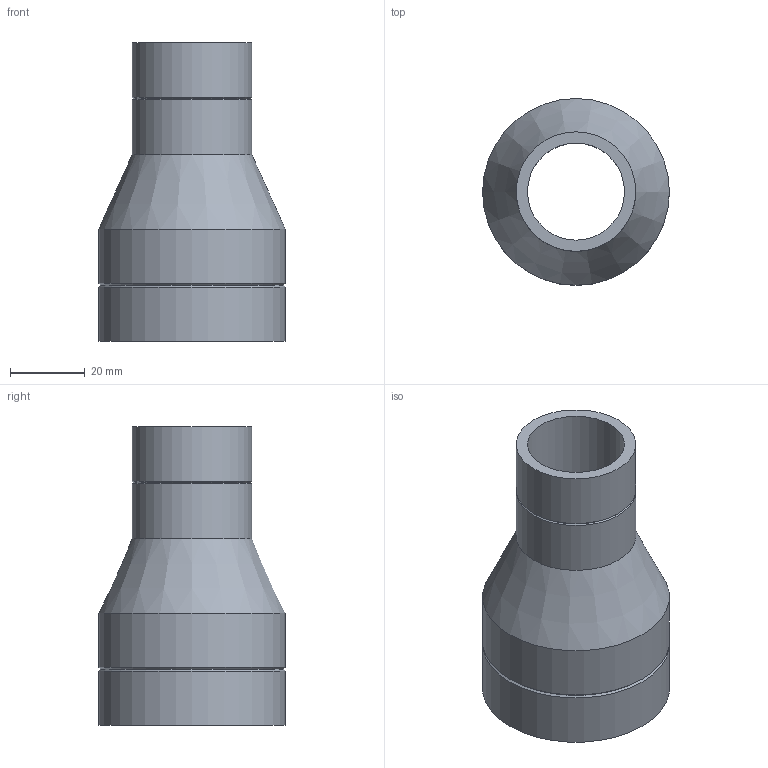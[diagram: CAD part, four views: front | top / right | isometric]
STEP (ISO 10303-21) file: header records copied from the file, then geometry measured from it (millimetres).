
FILE_DESCRIPTION(/* description */ (''),/* implementation_level */ '2;1');
FILE_NAME(/* name */ 'Z:\Geberit\Export\NewStep\361557.stp',/* time_stamp */ '2014-04-01T21:05:55+02:00',/* author */ ('nelson'),/* organization */ (''),/* preprocessor_version */ 'ST-DEVELOPER v15.2',/* originating_system */ 'Autodesk Inventor 2014',/* authorisation */ '');
FILE_SCHEMA (('AUTOMOTIVE_DESIGN { 1 0 10303 214 3 1 1 }'));
Length unit declared in the file: millimetre
Products named in the file (1): 361557
Bounding box: 50 x 50 x 80 mm (x, y, z)
Volume: 28602.1 mm3; surface area: 20367 mm2
Topology: 1 solids, 1 shells, 14 faces, 31 edges, 19 vertices
Faces by surface type: cone 6, cylinder 6, plane 2
Full cylindrical faces by diameter (mm): 26 x1, 32 x2, 44 x1, 50 x2
Entity records: 323 total; most frequent: DIRECTION 58, CARTESIAN_POINT 43, AXIS2_PLACEMENT_3D 29, EDGE_LOOP 28, ORIENTED_EDGE 28, FACE_BOUND 16, STYLED_ITEM 15, CIRCLE 14
